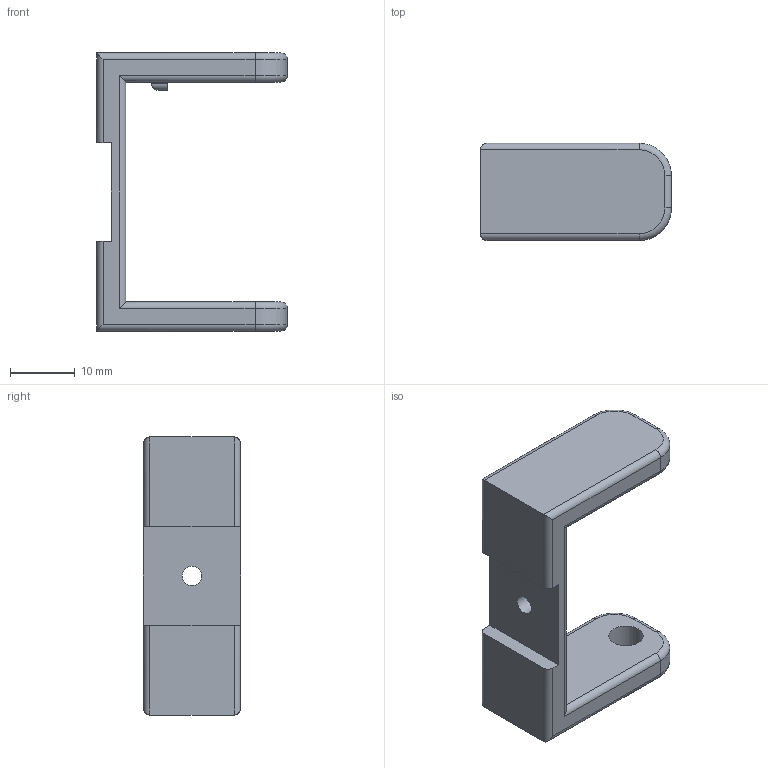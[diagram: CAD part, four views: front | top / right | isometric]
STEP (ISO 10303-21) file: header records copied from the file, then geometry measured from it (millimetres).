
FILE_DESCRIPTION(/* description */ ('STEP AP242 Edition 2','CAx-IF Rec.Pracs.---Representation and Presentation of Product Manufacturing Information (PMI)---4.0---2014-10-13','CAx-IF Rec.Pracs.---3D Tessellated Geometry---0.4---2014-09-14','2;1','CAx-IF Rec.Pracs.---User Defined Attributes---1.5---2016-08-15'),/* implementation_level */ '2;1');
FILE_NAME(/* name */ 'HIRO_Assembly - Part 1 (26)',/* time_stamp */ '2026-11-04T05:23:21Z',/* author */ (''),/* organization */ (''),/* preprocessor_version */ 'ST-DEVELOPER v20',/* originating_system */ 'ONSHAPE BY PTC INC, 1.223',/* authorisation */ ' ');
FILE_SCHEMA (('AP242_MANAGED_MODEL_BASED_3D_ENGINEERING_MIM_LF { 1 0 10303 442 3 1 4 }'));
Length unit declared in the file: metre
Products named in the file (1): Part 1
Bounding box: 29.5 x 15 x 43 mm (x, y, z)
Volume: 5331.6 mm3; surface area: 3660.8 mm2
Topology: 1 solids, 1 shells, 60 faces, 149 edges, 90 vertices
Faces by surface type: cylinder 29, plane 23, torus 8
Full cylindrical faces by diameter (mm): 3 x1, 5.3 x1
Entity records: 1773 total; most frequent: DIRECTION 325, CARTESIAN_POINT 294, ORIENTED_EDGE 290, EDGE_CURVE 145, AXIS2_PLACEMENT_3D 119, VERTEX_POINT 88, LINE 87, VECTOR 87
